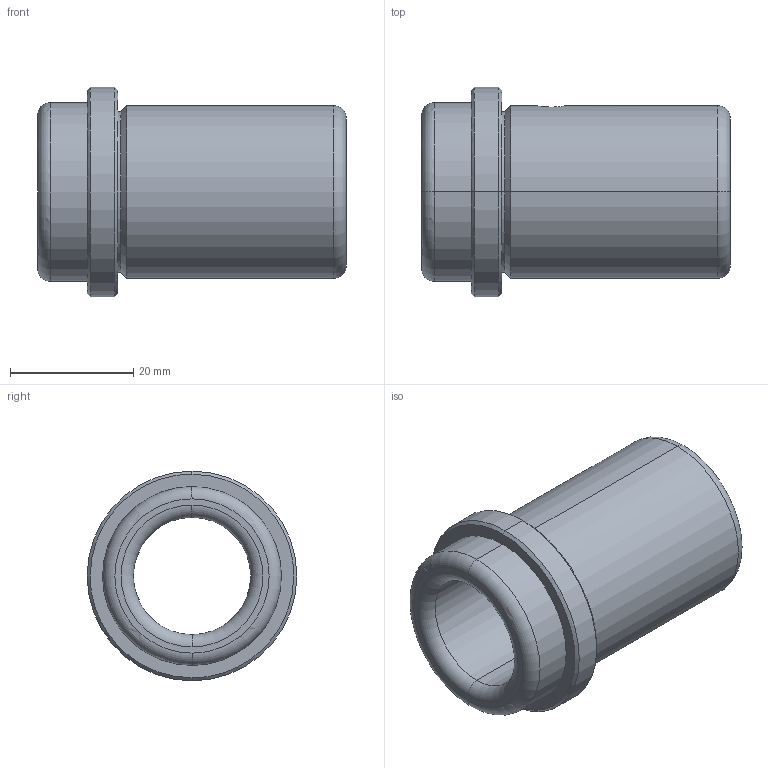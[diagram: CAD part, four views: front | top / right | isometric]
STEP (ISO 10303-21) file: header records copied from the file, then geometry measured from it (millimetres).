
FILE_DESCRIPTION(('CATIA V5 STEP Exchange'),'2;1');
FILE_NAME('C:\Users\Utente\Desktop\IO LAVORO\3D X SITO CF\X SITO\FAMO\FAMO-SF1-B19 x 50.stp','2021-01-06T17:13:19+00:00',('none'),('none'),'CATIA Version 5 Release 20 GA (IN-10)','CATIA V5 STEP AP203','none');
FILE_SCHEMA(('CONFIG_CONTROL_DESIGN'));
Length unit declared in the file: millimetre
Products named in the file (1): FAMO-SF1-B19 x 50
Bounding box: 50 x 34 x 34 mm (x, y, z)
Volume: 17812.5 mm3; surface area: 8698.2 mm2
Topology: 1 solids, 1 shells, 33 faces, 105 edges, 77 vertices
Faces by surface type: cylinder 12, torus 8, cone 8, plane 5
Entity records: 1431 total; most frequent: CARTESIAN_POINT 456, ORIENTED_EDGE 210, DIRECTION 158, AXIS2_PLACEMENT_3D 106, EDGE_CURVE 105, VERTEX_POINT 77, CIRCLE 72, EDGE_LOOP 40
